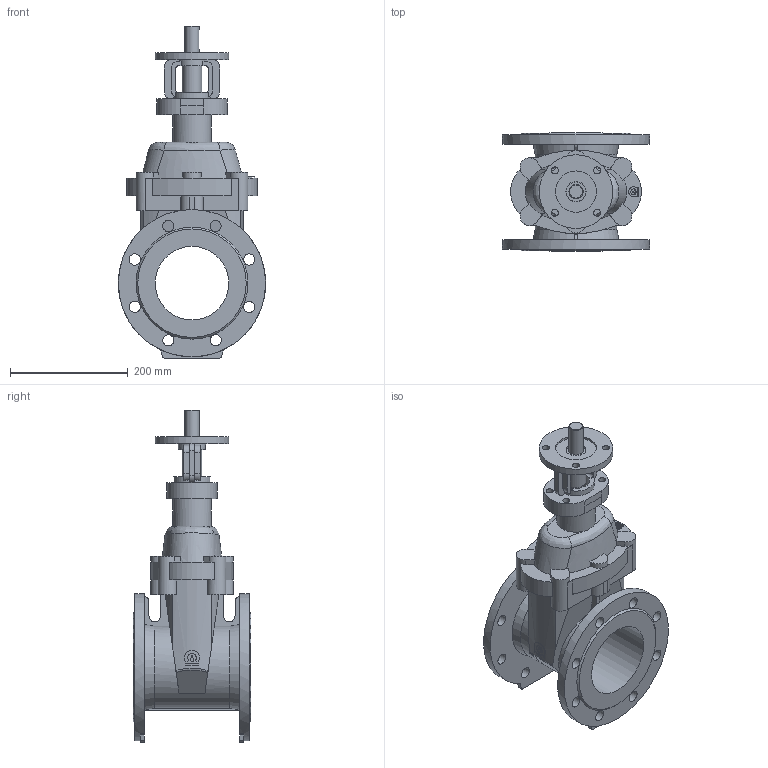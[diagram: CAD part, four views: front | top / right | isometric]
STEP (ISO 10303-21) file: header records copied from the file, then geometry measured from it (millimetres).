
FILE_DESCRIPTION(('STEP AP203'), '1');
FILE_NAME('Çàäâèæêà 47GV.M DN125 ñ ïåðåõîäîì ïîä ISO ôëàíåö', '', ('UNSPECIFIED'), ('UNSPECIFIED'), 'ASCON STEP Converter 1.6', 'ASCON Math Kernel', '');
FILE_SCHEMA(('CONFIG_CONTROL_DESIGN'));
Length unit declared in the file: millimetre
Bounding box: 250 x 200 x 563.5 mm (x, y, z)
Volume: 5480650.6 mm3; surface area: 550674 mm2
Topology: 1 solids, 1 shells, 254 faces, 700 edges, 465 vertices
Faces by surface type: plane 122, cylinder 115, bspline 10, cone 7
Full cylindrical faces by diameter (mm): 12 x8, 19 x16, 24 x2, 33 x1, 34 x1, 46 x1, 66 x1, 70 x2, 125 x2, 250 x2
Entity records: 13586 total; most frequent: CARTESIAN_POINT 5097, ORIENTED_EDGE 1322, DIRECTION 1292, EDGE_CURVE 661, AXIS2_PLACEMENT_3D 491, VERTEX_POINT 465, EDGE_LOOP 364, LINE 310
